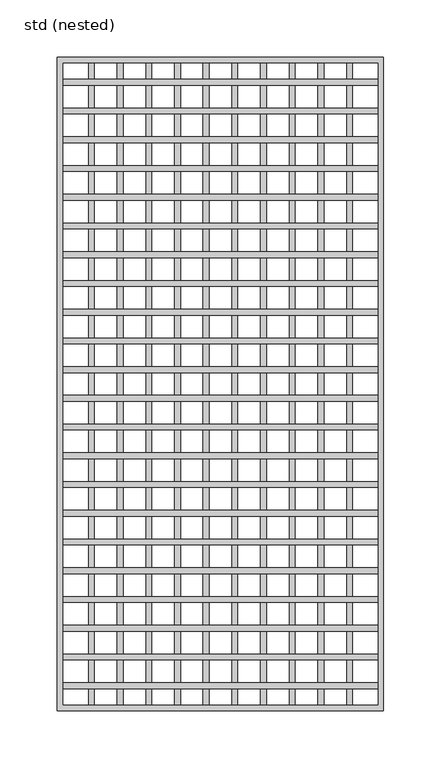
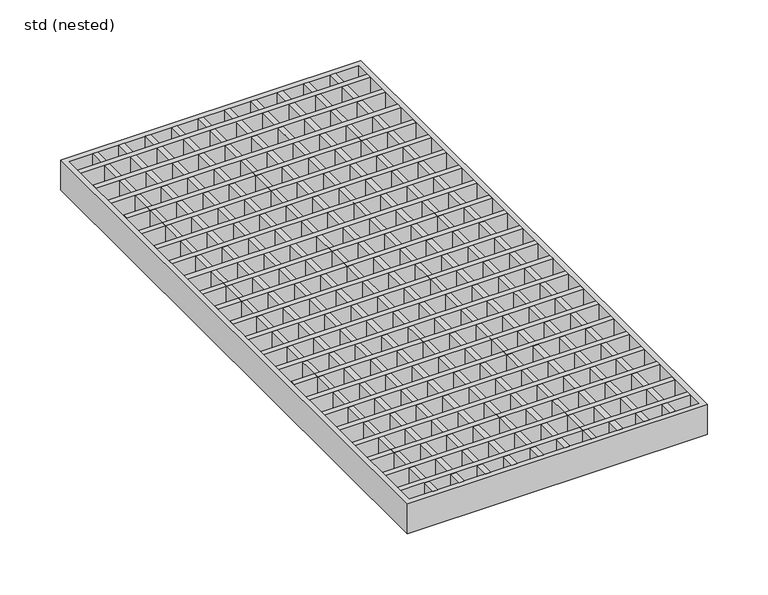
"""IFC4 building model written with IfcOpenShell, lengths in millimetres: sanitary terminal geometry, ZZZ_do not use_PF_ST_UN_grating for high capacity gully_ACO : std (nested)."""

import ifcopenshell
import ifcopenshell.guid

model = None  # the IFC model being written
_history = None  # IfcOwnerHistory: only IFC2X3 demands one
_inside = {}  # id of a spatial element -> (the spatial element, [elements in it])
_under = {}  # id of a project, library or spatial element -> (it, [spatial elements below it])
_declared = {}  # id of a project -> (the project, [libraries it declares])
_typed = {}  # id of a type object -> (the type object, [elements of that type])
_made_of = {}  # id of a material, layer set ... -> (it, [elements and type objects made of it])


def new_model(schema):
    """Start an empty IFC model of exactly this schema.

    Asked for "IFC4X3", IfcOpenShell would pick the latest addendum, in which some entities
    have other attributes; the version numbers below select the first issue.
    IFC2X3 requires an IfcOwnerHistory on every rooted entity: one is made here for all.
    """
    global model, _history
    if schema == "IFC4X3":
        model = ifcopenshell.file(schema_version=(4, 3, 0, 0))
    else:
        model = ifcopenshell.file(schema=schema)
    _inside.clear()
    _under.clear()
    _declared.clear()
    _typed.clear()
    _made_of.clear()
    _history = None
    if model.schema == "IFC2X3":
        org = make("IfcOrganization", Name="unknown")
        user = make(
            "IfcPersonAndOrganization",
            ThePerson=make("IfcPerson", FamilyName="unknown"),
            TheOrganization=org,
        )
        app = make(
            "IfcApplication",
            ApplicationDeveloper=org,
            Version="unknown",
            ApplicationFullName="unknown",
            ApplicationIdentifier="unknown",
        )
        _history = make(
            "IfcOwnerHistory",
            OwningUser=user,
            OwningApplication=app,
            ChangeAction="ADDED",
            CreationDate=0,
        )
    return model


def make(cls, **values):
    """One entity of the class cls with the attributes given. An attribute that is None is left unset."""
    return model.create_entity(
        cls, **{name: value for name, value in values.items() if value is not None}
    )


def rooted(cls, **values):
    """An entity with a GlobalId (a new one), such as an element, a storey or a relation."""
    return make(cls, GlobalId=ifcopenshell.guid.new(), OwnerHistory=_history, **values)


def si_unit(unit_type, name, prefix=None):
    """IfcSIUnit, for example si_unit("LENGTHUNIT", "METRE", prefix="MILLI")."""
    return make("IfcSIUnit", UnitType=unit_type, Prefix=prefix, Name=name)


def assignment(units):
    """IfcUnitAssignment: the units of a project."""
    return None if units is None else make("IfcUnitAssignment", Units=units)


def point(xyz):
    """IfcCartesianPoint."""
    return None if xyz is None else make("IfcCartesianPoint", Coordinates=xyz)


def direction(xyz):
    """IfcDirection."""
    return None if xyz is None else make("IfcDirection", DirectionRatios=xyz)


def frame(location, z_axis=None, x_axis=None):
    """IfcAxis2Placement3D, a coordinate frame: its origin and axes. An axis left out is left unset."""
    return make(
        "IfcAxis2Placement3D",
        Location=point(location),
        Axis=direction(z_axis),
        RefDirection=direction(x_axis),
    )


def origin():
    """The frame at (0, 0, 0) with its axes left unset."""
    return frame((0.0, 0.0, 0.0))


def place(relative_to, where):
    """IfcLocalPlacement: puts the frame where relative to a parent placement (None: the world)."""
    return make(
        "IfcLocalPlacement", PlacementRelTo=relative_to, RelativePlacement=where
    )


def context(
    kind, dimensions, precision=None, world=None, true_north=None, identifier=None
):
    """IfcGeometricRepresentationContext, for example the 3D "Model" context."""
    return make(
        "IfcGeometricRepresentationContext",
        ContextIdentifier=identifier,
        ContextType=kind,
        CoordinateSpaceDimension=dimensions,
        Precision=precision,
        WorldCoordinateSystem=world,
        TrueNorth=true_north,
    )


def project(units=None, contexts=None):
    """IfcProject with its units and contexts."""
    return rooted(
        "IfcProject",
        Name="project",
        RepresentationContexts=contexts,
        UnitsInContext=assignment(units),
    )


def spatial(cls, under=None, at=None, **own):
    """A site, building, storey or space (cls), placed at a placement, below another one or the project."""
    s = rooted(cls, ObjectPlacement=at, **own)
    if under is not None:
        _under.setdefault(under.id(), (under, []))[1].append(s)
    return s


def polyline(points):
    """IfcPolyline through the points."""
    return make("IfcPolyline", Points=[point(p) for p in points])


def outline(outer, holes=None, kind="AREA"):
    """IfcArbitraryClosedProfileDef: a profile drawn as a closed curve; with holes, ...WithVoids."""
    if holes is None:
        return make("IfcArbitraryClosedProfileDef", ProfileType=kind, OuterCurve=outer)
    return make(
        "IfcArbitraryProfileDefWithVoids",
        ProfileType=kind,
        OuterCurve=outer,
        InnerCurves=holes,
    )


def extrude(swept, where, along, depth):
    """IfcExtrudedAreaSolid: the profile swept, set in the frame where, extruded along a direction by depth."""
    return make(
        "IfcExtrudedAreaSolid",
        SweptArea=swept,
        Position=where,
        ExtrudedDirection=direction(along),
        Depth=depth,
    )


def shape(context_of_items, identifier, shape_type, items):
    """IfcShapeRepresentation: the items that make up one representation, for example the "Body"."""
    return make(
        "IfcShapeRepresentation",
        ContextOfItems=context_of_items,
        RepresentationIdentifier=identifier,
        RepresentationType=shape_type,
        Items=items,
    )


def source(mapping_origin, context_of_items, identifier, shape_type, items):
    """IfcRepresentationMap: a shape defined once, which mapped items show again and again."""
    return make(
        "IfcRepresentationMap",
        MappingOrigin=mapping_origin,
        MappedRepresentation=shape(context_of_items, identifier, shape_type, items),
    )


def transform(
    local_origin,
    x_axis=None,
    y_axis=None,
    z_axis=None,
    scale=None,
    scale2=None,
    scale3=None,
    uniform=True,
):
    """IfcCartesianTransformationOperator3D, or its non-uniform kind. x_axis, y_axis, z_axis: its Axis1, 2, 3."""
    if uniform:
        return make(
            "IfcCartesianTransformationOperator3D",
            Axis1=direction(x_axis),
            Axis2=direction(y_axis),
            LocalOrigin=point(local_origin),
            Scale=scale,
            Axis3=direction(z_axis),
        )
    return make(
        "IfcCartesianTransformationOperator3DnonUniform",
        Axis1=direction(x_axis),
        Axis2=direction(y_axis),
        LocalOrigin=point(local_origin),
        Scale=scale,
        Axis3=direction(z_axis),
        Scale2=scale2,
        Scale3=scale3,
    )


def mapped(mapping_source, mapping_target):
    """IfcMappedItem: shows the shape of a source again, moved by a transform."""
    return make(
        "IfcMappedItem", MappingSource=mapping_source, MappingTarget=mapping_target
    )


def made_of(thing, what):
    """Note that an element or type object is made of a material, layer set ...; save() writes the relation."""
    if what is not None:
        _made_of.setdefault(what.id(), (what, []))[1].append(thing)
    return thing


def element(
    cls,
    number,
    at=None,
    inside=None,
    cuts=None,
    type_object=None,
    material=None,
    context=None,
    identifier="Body",
    shape_type=None,
    held_by="IfcProductDefinitionShape",
    body=None,
    shapes=None,
    **own,
):
    """One element of the class cls, such as IfcWall. Its Tag is "e" and its number.

    at: its placement. inside: the storey or other place that contains it. cuts: it is an
    opening in that element (IfcRelVoidsElement). A single representation is given by context,
    identifier, shape_type and body (its items); several are given by shapes. held_by: the class
    of the entity that holds the representations. save() writes the other relations.
    """
    e = rooted(cls, Tag="e%d" % number, ObjectPlacement=at, **own)
    if body is not None:
        shapes = [shape(context, identifier, shape_type, body)]
    if shapes is not None:
        e.Representation = make(held_by, Representations=shapes)
    if inside is not None:
        _inside.setdefault(inside.id(), (inside, []))[1].append(e)
    if cuts is not None:
        rooted(
            "IfcRelVoidsElement", RelatingBuildingElement=cuts, RelatedOpeningElement=e
        )
    if type_object is not None:
        _typed.setdefault(type_object.id(), (type_object, []))[1].append(e)
    return made_of(e, material)


def aggregate(whole, parts):
    """IfcRelAggregates: a whole, such as a stair, and the parts it consists of."""
    return rooted("IfcRelAggregates", RelatingObject=whole, RelatedObjects=parts)


def save(model, path):
    """Write the relations noted so far, then the file.

    IfcRelAggregates (storeys below a building ...), IfcRelContainedInSpatialStructure (elements
    in a storey), IfcRelDefinesByType, IfcRelAssociatesMaterial and IfcRelDeclares: one each for
    every whole, place, type object, material and project.
    """
    for whole, parts in _under.values():
        aggregate(whole, parts)
    for where, things in _inside.values():
        rooted(
            "IfcRelContainedInSpatialStructure",
            RelatedElements=things,
            RelatingStructure=where,
        )
    for kind, things in _typed.values():
        rooted("IfcRelDefinesByType", RelatedObjects=things, RelatingType=kind)
    for what, things in _made_of.values():
        rooted("IfcRelAssociatesMaterial", RelatedObjects=things, RelatingMaterial=what)
    for by, libraries in _declared.values():
        rooted("IfcRelDeclares", RelatingContext=by, RelatedDefinitions=libraries)
    model.write(path)


def std_nested_ba545059(model_context):
    return source(origin(), model_context, "Body", "SweptSolid", [
        extrude(outline(polyline([(137.0, 265.0), (137.0, 260.0), (-137.0, 260.0), (-137.0, 265.0), (137.0, 265.0)])), frame((0.0, 0.0, -20.0), z_axis=(0.0, 0.0, 1.0), x_axis=(1.0, 0.0, 0.0)), (0.0, 0.0, 1.0), 20.0),
        extrude(outline(polyline([(137.0, 240.0), (137.0, 235.0), (-137.0, 235.0), (-137.0, 240.0), (137.0, 240.0)])), frame((0.0, 0.0, -20.0), z_axis=(0.0, 0.0, 1.0), x_axis=(1.0, 0.0, 0.0)), (0.0, 0.0, 1.0), 20.0),
        extrude(outline(polyline([(137.0, 215.0), (137.0, 210.0), (-137.0, 210.0), (-137.0, 215.0), (137.0, 215.0)])), frame((0.0, 0.0, -20.0), z_axis=(0.0, 0.0, 1.0), x_axis=(1.0, 0.0, 0.0)), (0.0, 0.0, 1.0), 20.0),
        extrude(outline(polyline([(137.0, -265.0), (-137.0, -265.0), (-137.0, -260.0), (137.0, -260.0), (137.0, -265.0)])), frame((0.0, 0.0, -20.0), z_axis=(0.0, 0.0, 1.0), x_axis=(1.0, 0.0, 0.0)), (0.0, 0.0, 1.0), 20.0),
        extrude(outline(polyline([(137.0, -240.0), (-137.0, -240.0), (-137.0, -235.0), (137.0, -235.0), (137.0, -240.0)])), frame((0.0, 0.0, -20.0), z_axis=(0.0, 0.0, 1.0), x_axis=(1.0, 0.0, 0.0)), (0.0, 0.0, 1.0), 20.0),
        extrude(outline(polyline([(137.0, -215.0), (-137.0, -215.0), (-137.0, -210.0), (137.0, -210.0), (137.0, -215.0)])), frame((0.0, 0.0, -20.0), z_axis=(0.0, 0.0, 1.0), x_axis=(1.0, 0.0, 0.0)), (0.0, 0.0, 1.0), 20.0),
        extrude(outline(polyline([(137.0, 190.0), (137.0, 185.0), (-137.0, 185.0), (-137.0, 190.0), (137.0, 190.0)])), frame((0.0, 0.0, -20.0), z_axis=(0.0, 0.0, 1.0), x_axis=(1.0, 0.0, 0.0)), (0.0, 0.0, 1.0), 20.0),
        extrude(outline(polyline([(137.0, 165.0), (137.0, 160.0), (-137.0, 160.0), (-137.0, 165.0), (137.0, 165.0)])), frame((0.0, 0.0, -20.0), z_axis=(0.0, 0.0, 1.0), x_axis=(1.0, 0.0, 0.0)), (0.0, 0.0, 1.0), 20.0),
        extrude(outline(polyline([(137.0, 140.0), (137.0, 135.0), (-137.0, 135.0), (-137.0, 140.0), (137.0, 140.0)])), frame((0.0, 0.0, -20.0), z_axis=(0.0, 0.0, 1.0), x_axis=(1.0, 0.0, 0.0)), (0.0, 0.0, 1.0), 20.0),
        extrude(outline(polyline([(137.0, 115.0), (137.0, 110.0), (-137.0, 110.0), (-137.0, 115.0), (137.0, 115.0)])), frame((0.0, 0.0, -20.0), z_axis=(0.0, 0.0, 1.0), x_axis=(1.0, 0.0, 0.0)), (0.0, 0.0, 1.0), 20.0),
        extrude(outline(polyline([(137.0, 90.0), (137.0, 85.0), (-137.0, 85.0), (-137.0, 90.0), (137.0, 90.0)])), frame((0.0, 0.0, -20.0), z_axis=(0.0, 0.0, 1.0), x_axis=(1.0, 0.0, 0.0)), (0.0, 0.0, 1.0), 20.0),
        extrude(outline(polyline([(137.0, 65.0), (137.0, 60.0), (-137.0, 60.0), (-137.0, 65.0), (137.0, 65.0)])), frame((0.0, 0.0, -20.0), z_axis=(0.0, 0.0, 1.0), x_axis=(1.0, 0.0, 0.0)), (0.0, 0.0, 1.0), 20.0),
        extrude(outline(polyline([(137.0, 40.0), (137.0, 35.0), (-137.0, 35.0), (-137.0, 40.0), (137.0, 40.0)])), frame((0.0, 0.0, -20.0), z_axis=(0.0, 0.0, 1.0), x_axis=(1.0, 0.0, 0.0)), (0.0, 0.0, 1.0), 20.0),
        extrude(outline(polyline([(137.0, -190.0), (-137.0, -190.0), (-137.0, -185.0), (137.0, -185.0), (137.0, -190.0)])), frame((0.0, 0.0, -20.0), z_axis=(0.0, 0.0, 1.0), x_axis=(1.0, 0.0, 0.0)), (0.0, 0.0, 1.0), 20.0),
        extrude(outline(polyline([(137.0, -165.0), (-137.0, -165.0), (-137.0, -160.0), (137.0, -160.0), (137.0, -165.0)])), frame((0.0, 0.0, -20.0), z_axis=(0.0, 0.0, 1.0), x_axis=(1.0, 0.0, 0.0)), (0.0, 0.0, 1.0), 20.0),
        extrude(outline(polyline([(137.0, -140.0), (-137.0, -140.0), (-137.0, -135.0), (137.0, -135.0), (137.0, -140.0)])), frame((0.0, 0.0, -20.0), z_axis=(0.0, 0.0, 1.0), x_axis=(1.0, 0.0, 0.0)), (0.0, 0.0, 1.0), 20.0),
        extrude(outline(polyline([(137.0, -115.0), (-137.0, -115.0), (-137.0, -110.0), (137.0, -110.0), (137.0, -115.0)])), frame((0.0, 0.0, -20.0), z_axis=(0.0, 0.0, 1.0), x_axis=(1.0, 0.0, 0.0)), (0.0, 0.0, 1.0), 20.0),
        extrude(outline(polyline([(137.0, -90.0), (-137.0, -90.0), (-137.0, -85.0), (137.0, -85.0), (137.0, -90.0)])), frame((0.0, 0.0, -20.0), z_axis=(0.0, 0.0, 1.0), x_axis=(1.0, 0.0, 0.0)), (0.0, 0.0, 1.0), 20.0),
        extrude(outline(polyline([(137.0, -65.0), (-137.0, -65.0), (-137.0, -60.0), (137.0, -60.0), (137.0, -65.0)])), frame((0.0, 0.0, -20.0), z_axis=(0.0, 0.0, 1.0), x_axis=(1.0, 0.0, 0.0)), (0.0, 0.0, 1.0), 20.0),
        extrude(outline(polyline([(137.0, -40.0), (-137.0, -40.0), (-137.0, -35.0), (137.0, -35.0), (137.0, -40.0)])), frame((0.0, 0.0, -20.0), z_axis=(0.0, 0.0, 1.0), x_axis=(1.0, 0.0, 0.0)), (0.0, 0.0, 1.0), 20.0),
        extrude(outline(polyline([(137.0, -15.0), (-137.0, -15.0), (-137.0, -10.0), (137.0, -10.0), (137.0, -15.0)])), frame((0.0, 0.0, -20.0), z_axis=(0.0, 0.0, 1.0), x_axis=(1.0, 0.0, 0.0)), (0.0, 0.0, 1.0), 20.0),
        extrude(outline(polyline([(137.0, 15.0), (137.0, 10.0), (-137.0, 10.0), (-137.0, 15.0), (137.0, 15.0)])), frame((0.0, 0.0, -20.0), z_axis=(0.0, 0.0, 1.0), x_axis=(1.0, 0.0, 0.0)), (0.0, 0.0, 1.0), 20.0),
        extrude(outline(polyline([(-115.0, -279.0), (-115.0, 279.0), (-110.0, 279.0), (-110.0, -279.0), (-115.0, -279.0)])), frame((0.0, 0.0, -20.0), z_axis=(0.0, 0.0, 1.0), x_axis=(1.0, 0.0, 0.0)), (0.0, 0.0, 1.0), 20.0),
        extrude(outline(polyline([(-90.0, -279.0), (-90.0, 279.0), (-85.0, 279.0), (-85.0, -279.0), (-90.0, -279.0)])), frame((0.0, 0.0, -20.0), z_axis=(0.0, 0.0, 1.0), x_axis=(1.0, 0.0, 0.0)), (0.0, 0.0, 1.0), 20.0),
        extrude(outline(polyline([(-65.0, -279.0), (-65.0, 279.0), (-60.0, 279.0), (-60.0, -279.0), (-65.0, -279.0)])), frame((0.0, 0.0, -20.0), z_axis=(0.0, 0.0, 1.0), x_axis=(1.0, 0.0, 0.0)), (0.0, 0.0, 1.0), 20.0),
        extrude(outline(polyline([(-40.0, -279.0), (-40.0, 279.0), (-35.0, 279.0), (-35.0, -279.0), (-40.0, -279.0)])), frame((0.0, 0.0, -20.0), z_axis=(0.0, 0.0, 1.0), x_axis=(1.0, 0.0, 0.0)), (0.0, 0.0, 1.0), 20.0),
        extrude(outline(polyline([(115.0, -279.0), (110.0, -279.0), (110.0, 279.0), (115.0, 279.0), (115.0, -279.0)])), frame((0.0, 0.0, -20.0), z_axis=(0.0, 0.0, 1.0), x_axis=(1.0, 0.0, 0.0)), (0.0, 0.0, 1.0), 20.0),
        extrude(outline(polyline([(90.0, -279.0), (85.0, -279.0), (85.0, 279.0), (90.0, 279.0), (90.0, -279.0)])), frame((0.0, 0.0, -20.0), z_axis=(0.0, 0.0, 1.0), x_axis=(1.0, 0.0, 0.0)), (0.0, 0.0, 1.0), 20.0),
        extrude(outline(polyline([(65.0, -279.0), (60.0, -279.0), (60.0, 279.0), (65.0, 279.0), (65.0, -279.0)])), frame((0.0, 0.0, -20.0), z_axis=(0.0, 0.0, 1.0), x_axis=(1.0, 0.0, 0.0)), (0.0, 0.0, 1.0), 20.0),
        extrude(outline(polyline([(40.0, -279.0), (35.0, -279.0), (35.0, 279.0), (40.0, 279.0), (40.0, -279.0)])), frame((0.0, 0.0, -20.0), z_axis=(0.0, 0.0, 1.0), x_axis=(1.0, 0.0, 0.0)), (0.0, 0.0, 1.0), 20.0),
        extrude(outline(polyline([(-15.0, -279.0), (-15.0, 279.0), (-10.0, 279.0), (-10.0, -279.0), (-15.0, -279.0)])), frame((0.0, 0.0, -20.0), z_axis=(0.0, 0.0, 1.0), x_axis=(1.0, 0.0, 0.0)), (0.0, 0.0, 1.0), 20.0),
        extrude(outline(polyline([(15.0, -279.0), (10.0, -279.0), (10.0, 279.0), (15.0, 279.0), (15.0, -279.0)])), frame((0.0, 0.0, -20.0), z_axis=(0.0, 0.0, 1.0), x_axis=(1.0, 0.0, 0.0)), (0.0, 0.0, 1.0), 20.0),
        extrude(outline(polyline([(142.0, -284.0), (-142.0, -284.0), (-142.0, 284.0), (142.0, 284.0), (142.0, -284.0)]), holes=[polyline([(137.0, -279.0), (137.0, 279.0), (-137.0, 279.0), (-137.0, -279.0), (137.0, -279.0)])]), frame((0.0, 0.0, -30.0), z_axis=(0.0, 0.0, 1.0), x_axis=(1.0, 0.0, 0.0)), (0.0, 0.0, 1.0), 30.0),
    ])


if __name__ == "__main__":
    model = new_model("IFC4")
    model_context = context("Model", 3, world=origin())
    ifc_project = project(units=[si_unit("LENGTHUNIT", "METRE", prefix="MILLI")], contexts=[model_context])
    site = spatial("IfcSite", under=ifc_project)
    building = spatial("IfcBuilding", under=site)
    placement = place(None, origin())
    std_nested_shape = std_nested_ba545059(model_context)
    element("IfcSanitaryTerminal", 1, ObjectType="ZZZ_do not use_PF_ST_UN_grating for high capacity gully_ACO : std (nested)", at=placement, inside=building, context=model_context, shape_type="MappedRepresentation", body=[
        mapped(std_nested_shape, transform((0.0, 0.0, 0.0), x_axis=(1.0, 0.0, 0.0), y_axis=(0.0, 1.0, 0.0), z_axis=(0.0, 0.0, 1.0))),
    ])
    save(model, "model.ifc")
